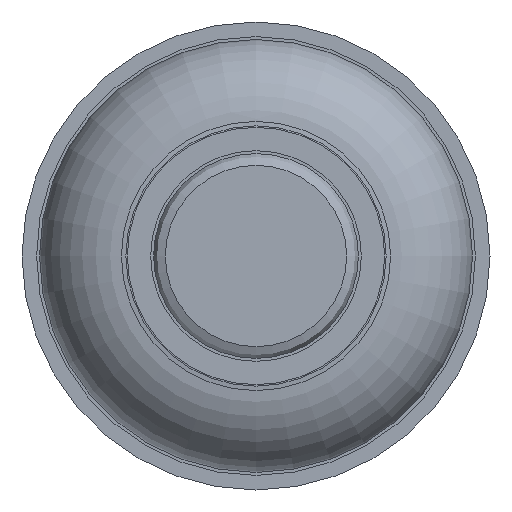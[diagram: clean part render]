
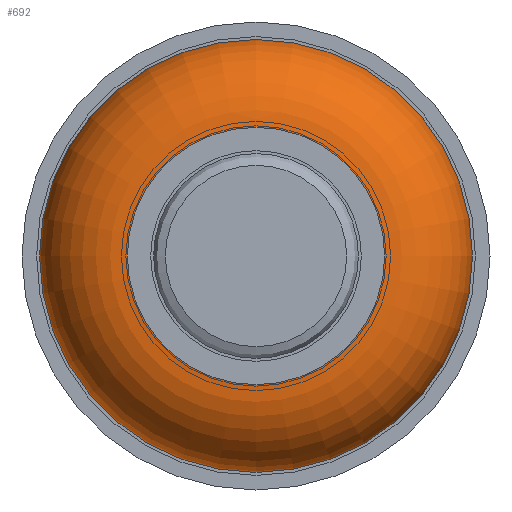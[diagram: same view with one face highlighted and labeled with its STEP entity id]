
A CAD part, left-side view. The second image highlights one B-rep face of the part: STEP entity #692.
In plain terms, the highlighted toroidal (fillet/blend) face has major radius 2.2 mm and minor radius 1.5 mm.
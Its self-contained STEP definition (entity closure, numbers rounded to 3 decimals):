
#360=TOROIDAL_SURFACE('',#1723,2.2,1.5);
#501=FACE_BOUND('',#895,.T.);
#502=FACE_BOUND('',#896,.T.);
#692=ADVANCED_FACE('',(#501,#502),#360,.T.);
#895=EDGE_LOOP('',(#1126));
#896=EDGE_LOOP('',(#1127));
#1126=ORIENTED_EDGE('',*,*,#1440,.F.);
#1127=ORIENTED_EDGE('',*,*,#1451,.T.);
#1322=VERTEX_POINT('',#2558);
#1333=VERTEX_POINT('',#2599);
#1440=EDGE_CURVE('',#1322,#1322,#1561,.T.);
#1451=EDGE_CURVE('',#1333,#1333,#1572,.T.);
#1561=CIRCLE('',#1701,2.2);
#1572=CIRCLE('',#1721,3.7);
#1701=AXIS2_PLACEMENT_3D('',#2557,#1998,#1999);
#1721=AXIS2_PLACEMENT_3D('',#2598,#2040,#2041);
#1723=AXIS2_PLACEMENT_3D('',#2601,#2044,#2045);
#1998=DIRECTION('',(-1.,0.,0.));
#1999=DIRECTION('',(0.,0.,1.));
#2040=DIRECTION('',(-1.,0.,0.));
#2041=DIRECTION('',(0.,0.,1.));
#2044=DIRECTION('',(-1.,0.,0.));
#2045=DIRECTION('',(0.,0.,1.));
#2557=CARTESIAN_POINT('',(0.,0.,0.));
#2558=CARTESIAN_POINT('',(0.,0.,2.2));
#2598=CARTESIAN_POINT('',(1.5,0.,0.));
#2599=CARTESIAN_POINT('',(1.5,0.,3.7));
#2601=CARTESIAN_POINT('',(1.5,0.,0.));
